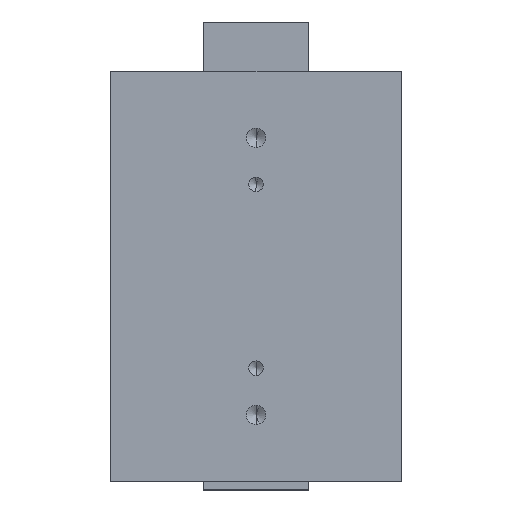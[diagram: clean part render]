
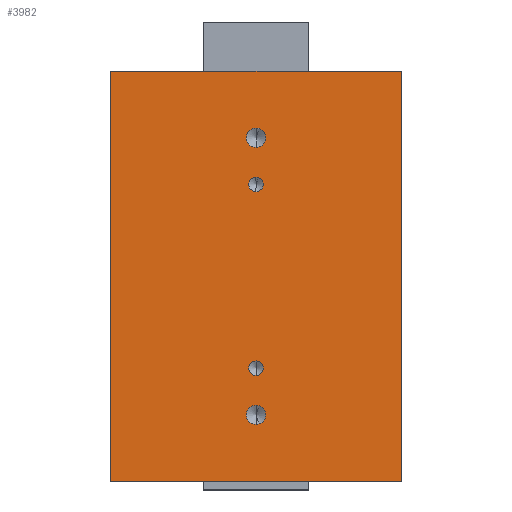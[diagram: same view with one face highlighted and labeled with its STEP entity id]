
A CAD part, top view. The second image highlights one B-rep face of the part: STEP entity #3982.
In plain terms, the highlighted planar face has unit normal (0, 0, 1).
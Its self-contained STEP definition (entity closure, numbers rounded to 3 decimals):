
#85 = DIRECTION ( 'NONE',  ( 0., 1., 0. ) ) ;
#109 = CARTESIAN_POINT ( 'NONE',  ( 24.9, 60.25, 83.7 ) ) ;
#145 = DIRECTION ( 'NONE',  ( 0., -1., 0. ) ) ;
#164 = LINE ( 'NONE', #3912, #4058 ) ;
#205 = VECTOR ( 'NONE', #993, 1000. ) ;
#394 = DIRECTION ( 'NONE',  ( 0., -1., 0. ) ) ;
#408 = EDGE_CURVE ( 'NONE', #3310, #2532, #682, .T. ) ;
#440 = VERTEX_POINT ( 'NONE', #2457 ) ;
#441 = CARTESIAN_POINT ( 'NONE',  ( 24.9, 12.75, 83.7 ) ) ;
#477 = EDGE_CURVE ( 'NONE', #4285, #3791, #2017, .T. ) ;
#478 = CARTESIAN_POINT ( 'NONE',  ( 0., 71.6, 83.7 ) ) ;
#492 = CARTESIAN_POINT ( 'NONE',  ( 0., 1.4, 83.7 ) ) ;
#531 = DIRECTION ( 'NONE',  ( 0., 0., 1. ) ) ;
#537 = CARTESIAN_POINT ( 'NONE',  ( 0., 71.6, 83.7 ) ) ;
#540 = ORIENTED_EDGE ( 'NONE', *, *, #3771, .F. ) ;
#555 = EDGE_CURVE ( 'NONE', #1628, #1440, #2172, .T. ) ;
#557 = CARTESIAN_POINT ( 'NONE',  ( 24.9, 52.25, 83.7 ) ) ;
#598 = AXIS2_PLACEMENT_3D ( 'NONE', #478, #3214, #145 ) ;
#682 = LINE ( 'NONE', #1034, #1804 ) ;
#769 = VERTEX_POINT ( 'NONE', #2039 ) ;
#792 = VERTEX_POINT ( 'NONE', #2016 ) ;
#812 = FACE_OUTER_BOUND ( 'NONE', #2137, .T. ) ;
#850 = DIRECTION ( 'NONE',  ( 0., 1., 0. ) ) ;
#885 = ORIENTED_EDGE ( 'NONE', *, *, #3446, .F. ) ;
#917 = CIRCLE ( 'NONE', #4223, 1.25 ) ;
#993 = DIRECTION ( 'NONE',  ( 0., -1., 0. ) ) ;
#1019 = AXIS2_PLACEMENT_3D ( 'NONE', #1398, #2772, #4149 ) ;
#1034 = CARTESIAN_POINT ( 'NONE',  ( 0., 71.6, 83.7 ) ) ;
#1118 = FACE_BOUND ( 'NONE', #3324, .T. ) ;
#1141 = DIRECTION ( 'NONE',  ( 0., 1., 0. ) ) ;
#1187 = DIRECTION ( 'NONE',  ( 1., 0., 0. ) ) ;
#1362 = EDGE_CURVE ( 'NONE', #3381, #769, #2914, .T. ) ;
#1387 = CARTESIAN_POINT ( 'NONE',  ( 24.9, 60.25, 83.7 ) ) ;
#1398 = CARTESIAN_POINT ( 'NONE',  ( 24.9, 20.75, 83.7 ) ) ;
#1439 = VERTEX_POINT ( 'NONE', #2380 ) ;
#1440 = VERTEX_POINT ( 'NONE', #3659 ) ;
#1462 = DIRECTION ( 'NONE',  ( 0., 1., 0. ) ) ;
#1508 = DIRECTION ( 'NONE',  ( 0., 0., 1. ) ) ;
#1515 = CARTESIAN_POINT ( 'NONE',  ( 24.9, 19.5, 83.7 ) ) ;
#1518 = LINE ( 'NONE', #3940, #3220 ) ;
#1616 = ORIENTED_EDGE ( 'NONE', *, *, #2777, .T. ) ;
#1628 = VERTEX_POINT ( 'NONE', #2813 ) ;
#1630 = CIRCLE ( 'NONE', #2578, 1.65 ) ;
#1762 = CARTESIAN_POINT ( 'NONE',  ( 24.9, 12.75, 83.7 ) ) ;
#1804 = VECTOR ( 'NONE', #394, 1000. ) ;
#1847 = CIRCLE ( 'NONE', #3786, 1.65 ) ;
#1933 = ORIENTED_EDGE ( 'NONE', *, *, #1362, .F. ) ;
#1937 = CARTESIAN_POINT ( 'NONE',  ( 49.8, 71.6, 83.7 ) ) ;
#1958 = DIRECTION ( 'NONE',  ( 0., 1., 0. ) ) ;
#2016 = CARTESIAN_POINT ( 'NONE',  ( 24.9, 51., 83.7 ) ) ;
#2017 = CIRCLE ( 'NONE', #1019, 1.25 ) ;
#2036 = AXIS2_PLACEMENT_3D ( 'NONE', #109, #1508, #85 ) ;
#2039 = CARTESIAN_POINT ( 'NONE',  ( 24.9, 58.6, 83.7 ) ) ;
#2046 = LINE ( 'NONE', #3361, #205 ) ;
#2051 = CIRCLE ( 'NONE', #2931, 1.25 ) ;
#2081 = EDGE_CURVE ( 'NONE', #3310, #2585, #164, .T. ) ;
#2128 = DIRECTION ( 'NONE',  ( 1., 0., 0. ) ) ;
#2137 = EDGE_LOOP ( 'NONE', ( #1616, #885, #4429, #2836 ) ) ;
#2172 = CIRCLE ( 'NONE', #4114, 1.65 ) ;
#2380 = CARTESIAN_POINT ( 'NONE',  ( 49.8, 1.4, 83.7 ) ) ;
#2457 = CARTESIAN_POINT ( 'NONE',  ( 24.9, 53.5, 83.7 ) ) ;
#2493 = DIRECTION ( 'NONE',  ( 0., 0., 1. ) ) ;
#2524 = ORIENTED_EDGE ( 'NONE', *, *, #2702, .F. ) ;
#2532 = VERTEX_POINT ( 'NONE', #492 ) ;
#2553 = CARTESIAN_POINT ( 'NONE',  ( 24.9, 20.75, 83.7 ) ) ;
#2578 = AXIS2_PLACEMENT_3D ( 'NONE', #1762, #2493, #1141 ) ;
#2582 = CARTESIAN_POINT ( 'NONE',  ( 24.9, 61.9, 83.7 ) ) ;
#2585 = VERTEX_POINT ( 'NONE', #1937 ) ;
#2622 = EDGE_CURVE ( 'NONE', #792, #440, #2936, .T. ) ;
#2687 = DIRECTION ( 'NONE',  ( 0., 1., 0. ) ) ;
#2702 = EDGE_CURVE ( 'NONE', #1440, #1628, #1630, .T. ) ;
#2772 = DIRECTION ( 'NONE',  ( 0., 0., 1. ) ) ;
#2777 = EDGE_CURVE ( 'NONE', #2532, #1439, #1518, .T. ) ;
#2789 = AXIS2_PLACEMENT_3D ( 'NONE', #557, #3701, #2687 ) ;
#2813 = CARTESIAN_POINT ( 'NONE',  ( 24.9, 14.4, 83.7 ) ) ;
#2836 = ORIENTED_EDGE ( 'NONE', *, *, #408, .T. ) ;
#2913 = DIRECTION ( 'NONE',  ( 0., 1., 0. ) ) ;
#2914 = CIRCLE ( 'NONE', #2036, 1.65 ) ;
#2931 = AXIS2_PLACEMENT_3D ( 'NONE', #2553, #3657, #2913 ) ;
#2936 = CIRCLE ( 'NONE', #2789, 1.25 ) ;
#3015 = EDGE_LOOP ( 'NONE', ( #1933, #540 ) ) ;
#3187 = ORIENTED_EDGE ( 'NONE', *, *, #477, .F. ) ;
#3194 = FACE_BOUND ( 'NONE', #3015, .T. ) ;
#3214 = DIRECTION ( 'NONE',  ( 0., 0., -1. ) ) ;
#3220 = VECTOR ( 'NONE', #2128, 1000. ) ;
#3304 = EDGE_CURVE ( 'NONE', #440, #792, #917, .T. ) ;
#3305 = ORIENTED_EDGE ( 'NONE', *, *, #3639, .F. ) ;
#3310 = VERTEX_POINT ( 'NONE', #537 ) ;
#3324 = EDGE_LOOP ( 'NONE', ( #3305, #3187 ) ) ;
#3344 = DIRECTION ( 'NONE',  ( 0., 0., 1. ) ) ;
#3361 = CARTESIAN_POINT ( 'NONE',  ( 49.8, 71.6, 83.7 ) ) ;
#3381 = VERTEX_POINT ( 'NONE', #2582 ) ;
#3417 = CARTESIAN_POINT ( 'NONE',  ( 24.9, 22., 83.7 ) ) ;
#3439 = DIRECTION ( 'NONE',  ( 0., 0., 1. ) ) ;
#3446 = EDGE_CURVE ( 'NONE', #2585, #1439, #2046, .T. ) ;
#3468 = EDGE_LOOP ( 'NONE', ( #4347, #2524 ) ) ;
#3535 = FACE_BOUND ( 'NONE', #3468, .T. ) ;
#3557 = PLANE ( 'NONE',  #598 ) ;
#3639 = EDGE_CURVE ( 'NONE', #3791, #4285, #2051, .T. ) ;
#3657 = DIRECTION ( 'NONE',  ( 0., 0., 1. ) ) ;
#3659 = CARTESIAN_POINT ( 'NONE',  ( 24.9, 11.1, 83.7 ) ) ;
#3676 = EDGE_LOOP ( 'NONE', ( #4208, #3919 ) ) ;
#3701 = DIRECTION ( 'NONE',  ( 0., 0., 1. ) ) ;
#3771 = EDGE_CURVE ( 'NONE', #769, #3381, #1847, .T. ) ;
#3786 = AXIS2_PLACEMENT_3D ( 'NONE', #1387, #3439, #1958 ) ;
#3791 = VERTEX_POINT ( 'NONE', #3417 ) ;
#3871 = FACE_BOUND ( 'NONE', #3676, .T. ) ;
#3912 = CARTESIAN_POINT ( 'NONE',  ( 0., 71.6, 83.7 ) ) ;
#3919 = ORIENTED_EDGE ( 'NONE', *, *, #2622, .F. ) ;
#3940 = CARTESIAN_POINT ( 'NONE',  ( 0., 1.4, 83.7 ) ) ;
#3982 = ADVANCED_FACE ( 'NONE', ( #1118, #3871, #3535, #3194, #812 ), #3557, .F. ) ;
#4058 = VECTOR ( 'NONE', #1187, 1000. ) ;
#4114 = AXIS2_PLACEMENT_3D ( 'NONE', #441, #531, #1462 ) ;
#4149 = DIRECTION ( 'NONE',  ( 0., 1., 0. ) ) ;
#4208 = ORIENTED_EDGE ( 'NONE', *, *, #3304, .F. ) ;
#4223 = AXIS2_PLACEMENT_3D ( 'NONE', #4272, #3344, #850 ) ;
#4272 = CARTESIAN_POINT ( 'NONE',  ( 24.9, 52.25, 83.7 ) ) ;
#4285 = VERTEX_POINT ( 'NONE', #1515 ) ;
#4347 = ORIENTED_EDGE ( 'NONE', *, *, #555, .F. ) ;
#4429 = ORIENTED_EDGE ( 'NONE', *, *, #2081, .F. ) ;
